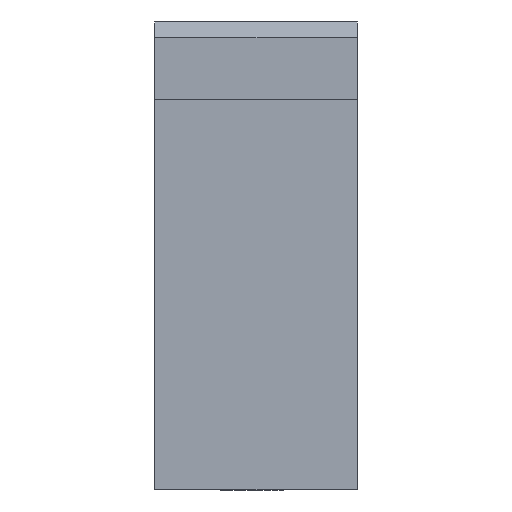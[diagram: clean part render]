
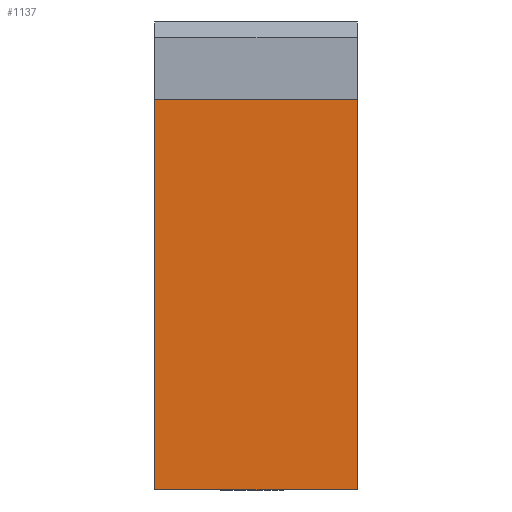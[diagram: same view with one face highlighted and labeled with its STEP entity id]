
A CAD part, front view. The second image highlights one B-rep face of the part: STEP entity #1137.
In plain terms, the highlighted planar face has unit normal (0, -1, 0).
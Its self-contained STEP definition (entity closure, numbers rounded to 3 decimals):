
#238=CARTESIAN_POINT('Vertex',(-13.,-44.,-34.)) ;
#241=CARTESIAN_POINT('Line Origine',(-13.,-44.,-9.)) ;
#245=CARTESIAN_POINT('Vertex',(-13.,-44.,16.)) ;
#1031=CARTESIAN_POINT('Line Origine',(0.,-44.,-34.)) ;
#1035=CARTESIAN_POINT('Vertex',(13.,-44.,-34.)) ;
#1114=CARTESIAN_POINT('Axis2P3D Location',(0.,-44.,-34.)) ;
#1119=CARTESIAN_POINT('Line Origine',(0.,-44.,16.)) ;
#1123=CARTESIAN_POINT('Vertex',(13.,-44.,16.)) ;
#1126=CARTESIAN_POINT('Line Origine',(13.,-44.,-9.)) ;
#242=DIRECTION('Vector Direction',(0.,0.,1.)) ;
#1032=DIRECTION('Vector Direction',(1.,0.,0.)) ;
#1115=DIRECTION('Axis2P3D Direction',(0.,1.,0.)) ;
#1116=DIRECTION('Axis2P3D XDirection',(0.,0.,1.)) ;
#1120=DIRECTION('Vector Direction',(1.,0.,0.)) ;
#1127=DIRECTION('Vector Direction',(0.,0.,1.)) ;
#1117=AXIS2_PLACEMENT_3D('Plane Axis2P3D',#1114,#1115,#1116) ;
#1132=ORIENTED_EDGE('',*,*,#1125,.F.) ;
#1133=ORIENTED_EDGE('',*,*,#247,.T.) ;
#1134=ORIENTED_EDGE('',*,*,#1037,.T.) ;
#1135=ORIENTED_EDGE('',*,*,#1130,.F.) ;
#243=VECTOR('Line Direction',#242,1.) ;
#1033=VECTOR('Line Direction',#1032,1.) ;
#1121=VECTOR('Line Direction',#1120,1.) ;
#1128=VECTOR('Line Direction',#1127,1.) ;
#1137=ADVANCED_FACE('BH20(H)',(#1136),#1118,.F.) ;
#247=EDGE_CURVE('',#246,#239,#244,.F.) ;
#1037=EDGE_CURVE('',#239,#1036,#1034,.T.) ;
#1125=EDGE_CURVE('',#246,#1124,#1122,.T.) ;
#1130=EDGE_CURVE('',#1124,#1036,#1129,.F.) ;
#1131=EDGE_LOOP('',(#1132,#1133,#1134,#1135)) ;
#1136=FACE_OUTER_BOUND('',#1131,.T.) ;
#244=LINE('Line',#241,#243) ;
#1034=LINE('Line',#1031,#1033) ;
#1122=LINE('Line',#1119,#1121) ;
#1129=LINE('Line',#1126,#1128) ;
#1118=PLANE('Plane',#1117) ;
#239=VERTEX_POINT('',#238) ;
#246=VERTEX_POINT('',#245) ;
#1036=VERTEX_POINT('',#1035) ;
#1124=VERTEX_POINT('',#1123) ;
